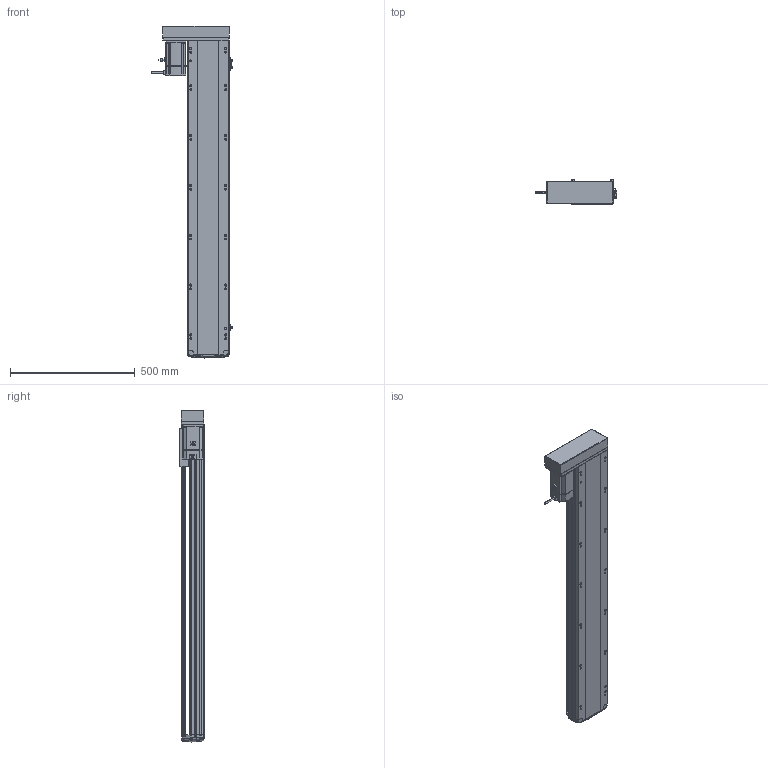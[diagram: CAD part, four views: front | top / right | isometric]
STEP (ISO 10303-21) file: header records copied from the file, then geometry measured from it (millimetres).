
FILE_DESCRIPTION (( 'STEP AP214' ), '1' );
FILE_NAME ('RTH17-XX-1050-R-M75-C4.STEP', '2025-10-24T10:19:03', ( '' ), ( '' ), 'SwSTEP 2.0', 'SolidWorks 2018', '' );
FILE_SCHEMA (( 'AUTOMOTIVE_DESIGN' ));
Length unit declared in the file: millimetre
Products named in the file (10): N_RTH17-L-018盖子^RTH17-XX-XX-R-M75-C4（方程式）; N_RTH-L-012 感应片(外置)^RTH17-XX-XX-R-M75-C4（方程式）; N_RTH17-L-008-P75电机安装板左转折^RTH17-XX-XX-R-M75-C4（方程式）; N_OMRON EE-SX672 換覜ん^RTH17-XX-XX-R-M75-C4ㄗ源最宒ㄘ; RTH17-XX-1050-R-M75-C4; N_M75^RTH17-XX-XX-R-M75-C4（方程式）; N_RTH17-M-007上盖^RTH17-XX-XX-R-M75-C4（方程式）; N_RTH17-E-004丝杆螺母连接座^RTH17-XX-XX-R-M75-C4（方程式）; N_RTH17-M-011底座^RTH17-XX-XX-R-M75-C4（方程式）; N_RTH17-GY-001P^RTH17-XX-XX-R-M75-C4（方程式）
Assembly tree (11 placements, depth 2):
  RTH17-XX-1050-R-M75-C4
    N_RTH17-M-011底座^RTH17-XX-XX-R-M75-C4（方程式）
    N_RTH17-M-007上盖^RTH17-XX-XX-R-M75-C4（方程式）
    N_M75^RTH17-XX-XX-R-M75-C4（方程式）
    N_OMRON EE-SX672 換覜ん^RTH17-XX-XX-R-M75-C4ㄗ源最宒ㄘ  x3
    N_RTH-L-012 感应片(外置)^RTH17-XX-XX-R-M75-C4（方程式）
    N_RTH17-L-008-P75电机安装板左转折^RTH17-XX-XX-R-M75-C4（方程式）
    N_RTH17-L-018盖子^RTH17-XX-XX-R-M75-C4（方程式）
    N_RTH17-E-004丝杆螺母连接座^RTH17-XX-XX-R-M75-C4（方程式）
    N_RTH17-GY-001P^RTH17-XX-XX-R-M75-C4（方程式）
Bounding box: 326.2 x 97 x 1332.99 mm (x, y, z)
Volume: 11608133.5 mm3; surface area: 1452128.2 mm2
Topology: 13 solids, 15 shells, 1773 faces, 4889 edges, 3166 vertices
Faces by surface type: plane 835, cylinder 524, bspline 377, cone 28, torus 9
Entity records: 51993 total; most frequent: CARTESIAN_POINT 20749, ORIENTED_EDGE 6802, DIRECTION 5653, EDGE_CURVE 3405, VERTEX_POINT 2202, AXIS2_PLACEMENT_3D 1909, VECTOR 1835, LINE 1835
